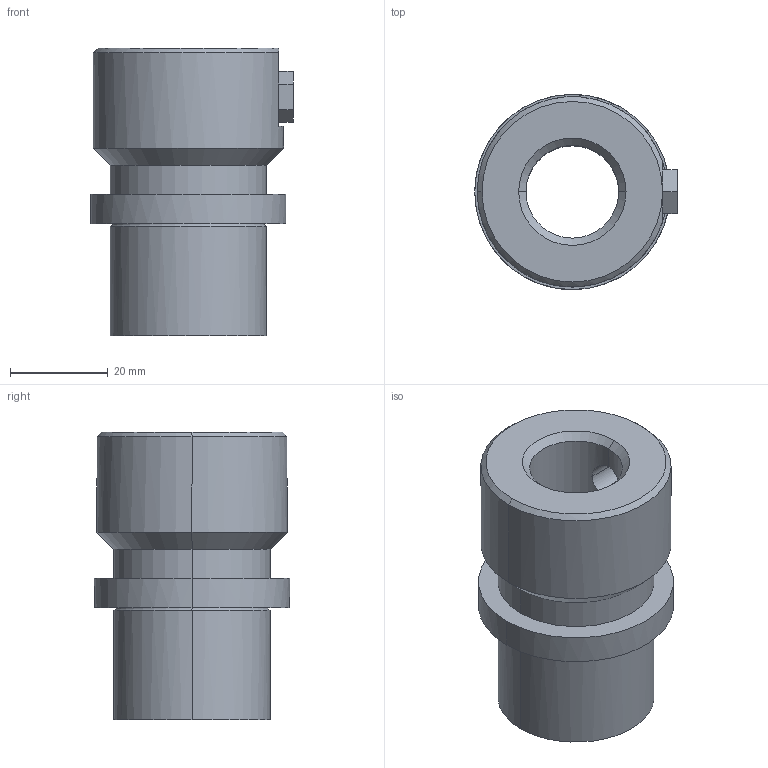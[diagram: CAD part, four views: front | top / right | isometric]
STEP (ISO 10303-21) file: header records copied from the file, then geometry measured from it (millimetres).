
FILE_DESCRIPTION(('CATIA V5 STEP Exchange'),'2;1');
FILE_NAME('C:\Users\Utente\Desktop\IO LAVORO\3D X SITO CF\X SITO\742\742-19.stp','2021-01-23T16:03:16+00:00',('none'),('none'),'CATIA Version 5 Release 20 GA (IN-10)','CATIA V5 STEP AP203','none');
FILE_SCHEMA(('CONFIG_CONTROL_DESIGN'));
Length unit declared in the file: millimetre
Products named in the file (1): 742-19
Assembly tree (1 placements, depth 2):
  742-19
    #58
Bounding box: 41.5 x 40 x 59 mm (x, y, z)
Volume: 41584.6 mm3; surface area: 12821.5 mm2
Topology: 1 solids, 1 shells, 38 faces, 91 edges, 58 vertices
Faces by surface type: plane 14, cylinder 12, cone 8, torus 4
Entity records: 1277 total; most frequent: CARTESIAN_POINT 359, ORIENTED_EDGE 182, DIRECTION 155, EDGE_CURVE 91, AXIS2_PLACEMENT_3D 74, VERTEX_POINT 58, EDGE_LOOP 43, VECTOR 41
